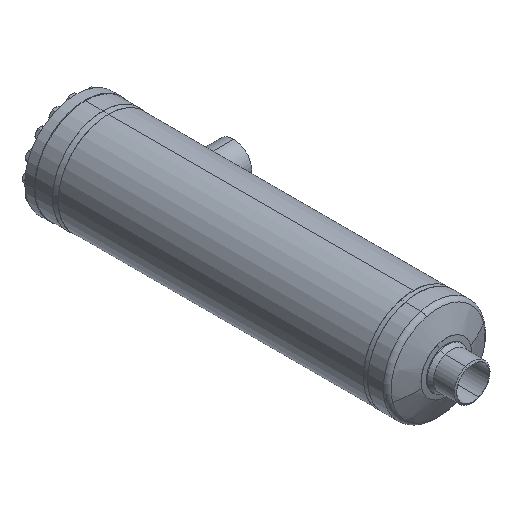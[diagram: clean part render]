
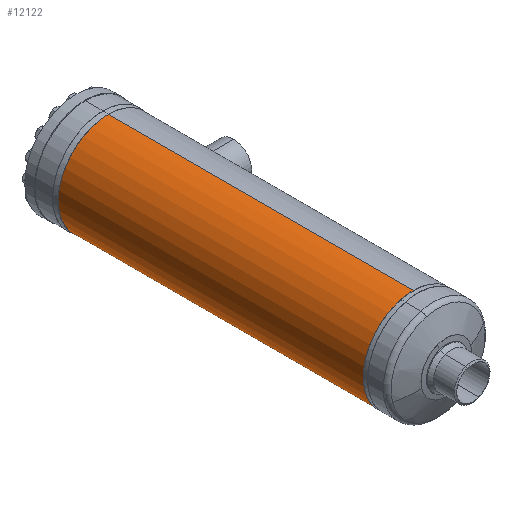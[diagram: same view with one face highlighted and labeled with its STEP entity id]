
A CAD part, isometric view. The second image highlights one B-rep face of the part: STEP entity #12122.
In plain terms, the highlighted cylindrical face has radius 84.15 mm (diameter 168.3 mm), a partial arc.
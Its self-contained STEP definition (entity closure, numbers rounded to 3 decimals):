
#260 = VERTEX_POINT ( 'NONE', #7092 ) ;
#1937 = EDGE_CURVE ( 'NONE', #12238, #260, #8537, .T. ) ;
#2739 = CIRCLE ( 'NONE', #2740, 84.15 ) ;
#2740 = AXIS2_PLACEMENT_3D ( 'NONE', #2741, #2742, #2743 ) ;
#2741 = CARTESIAN_POINT ( 'NONE',  ( 0., 516.536, 0. ) ) ;
#2742 = DIRECTION ( 'NONE',  ( 0., -1., 0. ) ) ;
#2743 = DIRECTION ( 'NONE',  ( 0., 0., -1. ) ) ;
#2795 = FACE_OUTER_BOUND ( 'NONE', #11917, .T. ) ;
#2796 = CYLINDRICAL_SURFACE ( 'NONE', #2797, 84.15 ) ;
#2797 = AXIS2_PLACEMENT_3D ( 'NONE', #2802, #2803, #2804 ) ;
#2802 = CARTESIAN_POINT ( 'NONE',  ( 0., 0., 0. ) ) ;
#2803 = DIRECTION ( 'NONE',  ( 0., -1., 0. ) ) ;
#2804 = DIRECTION ( 'NONE',  ( 0., 0., -1. ) ) ;
#2884 = CARTESIAN_POINT ( 'NONE',  ( 0., 516.536, -84.15 ) ) ;
#4014 = CARTESIAN_POINT ( 'NONE',  ( 0., 516.536, 84.15 ) ) ;
#4406 = VERTEX_POINT ( 'NONE', #11288 ) ;
#4636 = EDGE_CURVE ( 'NONE', #6258, #4406, #11407, .T. ) ;
#5819 = ORIENTED_EDGE ( 'NONE', *, *, #6657, .F. ) ;
#6022 = ORIENTED_EDGE ( 'NONE', *, *, #1937, .T. ) ;
#6104 = EDGE_CURVE ( 'NONE', #6258, #12238, #2739, .T. ) ;
#6162 = ORIENTED_EDGE ( 'NONE', *, *, #6104, .T. ) ;
#6258 = VERTEX_POINT ( 'NONE', #4014 ) ;
#6657 = EDGE_CURVE ( 'NONE', #4406, #260, #9172, .T. ) ;
#7092 = CARTESIAN_POINT ( 'NONE',  ( 0., 3.464, -84.15 ) ) ;
#8537 = LINE ( 'NONE', #8538, #8539 ) ;
#8538 = CARTESIAN_POINT ( 'NONE',  ( 0., 0., -84.15 ) ) ;
#8539 = VECTOR ( 'NONE', #8542, 1000. ) ;
#8542 = DIRECTION ( 'NONE',  ( 0., -1., 0. ) ) ;
#9172 = CIRCLE ( 'NONE', #9173, 84.15 ) ;
#9173 = AXIS2_PLACEMENT_3D ( 'NONE', #9174, #9175, #9176 ) ;
#9174 = CARTESIAN_POINT ( 'NONE',  ( 0., 3.464, 0. ) ) ;
#9175 = DIRECTION ( 'NONE',  ( 0., -1., 0. ) ) ;
#9176 = DIRECTION ( 'NONE',  ( 0., 0., -1. ) ) ;
#11288 = CARTESIAN_POINT ( 'NONE',  ( 0., 3.464, 84.15 ) ) ;
#11407 = LINE ( 'NONE', #11408, #11409 ) ;
#11408 = CARTESIAN_POINT ( 'NONE',  ( 0., 0., 84.15 ) ) ;
#11409 = VECTOR ( 'NONE', #11410, 1000. ) ;
#11410 = DIRECTION ( 'NONE',  ( 0., -1., 0. ) ) ;
#11917 = EDGE_LOOP ( 'NONE', ( #13088, #6162, #6022, #5819 ) ) ;
#12122 = ADVANCED_FACE ( 'NONE', ( #2795 ), #2796, .T. ) ;
#12238 = VERTEX_POINT ( 'NONE', #2884 ) ;
#13088 = ORIENTED_EDGE ( 'NONE', *, *, #4636, .F. ) ;
